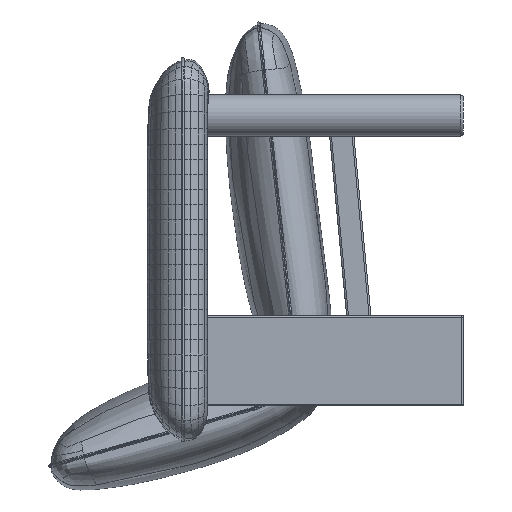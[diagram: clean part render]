
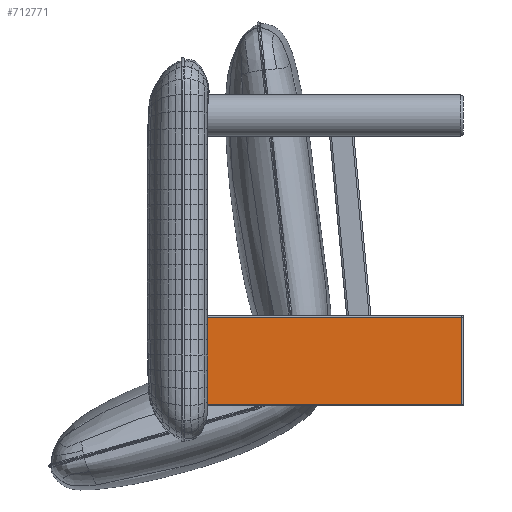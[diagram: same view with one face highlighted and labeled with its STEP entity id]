
A CAD part, left-side view. The second image highlights one B-rep face of the part: STEP entity #712771.
In plain terms, the highlighted planar face has unit normal (-1, 0, 0) as drawn and (1, 0, 0) by its records, which use the part's own axes.
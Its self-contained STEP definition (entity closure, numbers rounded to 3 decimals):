
#16454 = DIRECTION ( 'NONE',  ( 0., 0., 1. ) ) ;
#31367 = ORIENTED_EDGE ( 'NONE', *, *, #221078, .F. ) ;
#101558 = VECTOR ( 'NONE', #208064, 1000. ) ;
#135104 = CARTESIAN_POINT ( 'NONE',  ( 765., 582.069, 477. ) ) ;
#170129 = CARTESIAN_POINT ( 'NONE',  ( 765., 582.069, 333. ) ) ;
#171949 = VERTEX_POINT ( 'NONE', #351531 ) ;
#200758 = PLANE ( 'NONE',  #672079 ) ;
#208064 = DIRECTION ( 'NONE',  ( 0., 1., 0. ) ) ;
#213728 = EDGE_CURVE ( 'NONE', #716135, #612241, #598840, .T. ) ;
#221078 = EDGE_CURVE ( 'NONE', #171949, #808869, #682741, .T. ) ;
#297300 = CARTESIAN_POINT ( 'NONE',  ( 765., 430., 333. ) ) ;
#349479 = ORIENTED_EDGE ( 'NONE', *, *, #648810, .T. ) ;
#351531 = CARTESIAN_POINT ( 'NONE',  ( 765., 3., 477. ) ) ;
#364622 = VECTOR ( 'NONE', #16454, 1000. ) ;
#388539 = EDGE_LOOP ( 'NONE', ( #700686, #667071, #349479, #31367 ) ) ;
#410522 = CARTESIAN_POINT ( 'NONE',  ( 765., 3., 333. ) ) ;
#415062 = CARTESIAN_POINT ( 'NONE',  ( 765., 582.069, 330. ) ) ;
#473629 = CARTESIAN_POINT ( 'NONE',  ( 765., 430., 330. ) ) ;
#546586 = LINE ( 'NONE', #473629, #603166 ) ;
#598840 = LINE ( 'NONE', #170129, #698843 ) ;
#603166 = VECTOR ( 'NONE', #756459, 1000. ) ;
#612241 = VERTEX_POINT ( 'NONE', #410522 ) ;
#648810 = EDGE_CURVE ( 'NONE', #716135, #808869, #546586, .T. ) ;
#667071 = ORIENTED_EDGE ( 'NONE', *, *, #213728, .F. ) ;
#672079 = AXIS2_PLACEMENT_3D ( 'NONE', #415062, #834817, #889837 ) ;
#682741 = LINE ( 'NONE', #135104, #101558 ) ;
#698843 = VECTOR ( 'NONE', #722267, 1000. ) ;
#700686 = ORIENTED_EDGE ( 'NONE', *, *, #779302, .F. ) ;
#712771 = ADVANCED_FACE ( 'NONE', ( #752869 ), #200758, .F. ) ;
#716135 = VERTEX_POINT ( 'NONE', #297300 ) ;
#722267 = DIRECTION ( 'NONE',  ( 0., -1., 0. ) ) ;
#752869 = FACE_OUTER_BOUND ( 'NONE', #388539, .T. ) ;
#756459 = DIRECTION ( 'NONE',  ( 0., 0., 1. ) ) ;
#769497 = LINE ( 'NONE', #778444, #364622 ) ;
#778444 = CARTESIAN_POINT ( 'NONE',  ( 765., 3., 330. ) ) ;
#779302 = EDGE_CURVE ( 'NONE', #612241, #171949, #769497, .T. ) ;
#808869 = VERTEX_POINT ( 'NONE', #874344 ) ;
#834817 = DIRECTION ( 'NONE',  ( -1., 0., 0. ) ) ;
#874344 = CARTESIAN_POINT ( 'NONE',  ( 765., 430., 477. ) ) ;
#889837 = DIRECTION ( 'NONE',  ( 0., 0., -1. ) ) ;
